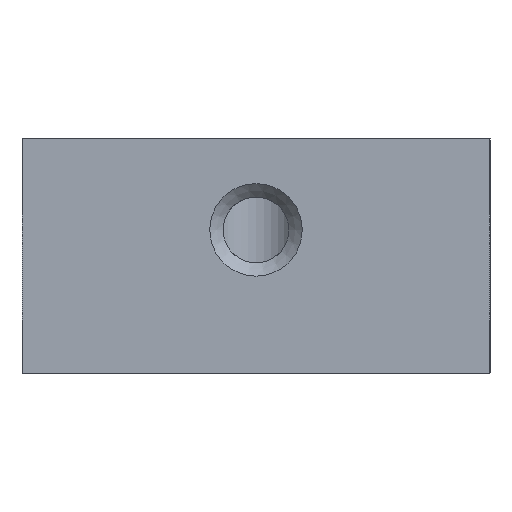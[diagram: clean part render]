
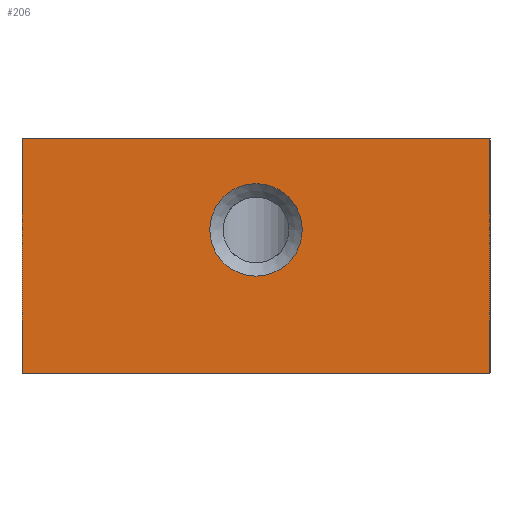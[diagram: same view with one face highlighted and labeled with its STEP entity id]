
A CAD part, left-side view. The second image highlights one B-rep face of the part: STEP entity #206.
In plain terms, the highlighted planar face has unit normal (-1, 0, 0).
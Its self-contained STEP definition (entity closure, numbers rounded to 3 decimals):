
#206=ADVANCED_FACE('',(#603,#605),#607,.T.);
#603=FACE_BOUND('',#604,.T.);
#604=EDGE_LOOP('',(#947,#948,#949,#950));
#605=FACE_BOUND('',#606,.T.);
#606=EDGE_LOOP('',(#951));
#607=PLANE('',#608);
#608=AXIS2_PLACEMENT_3D('',#609,#610,#611);
#609=CARTESIAN_POINT('',(-44.5,-17.5,20.5));
#610=DIRECTION('',(-1.,0.,0.));
#611=DIRECTION('',(0.,1.,0.));
#947=ORIENTED_EDGE('',*,*,#1093,.T.);
#948=ORIENTED_EDGE('',*,*,#1125,.T.);
#949=ORIENTED_EDGE('',*,*,#1052,.F.);
#950=ORIENTED_EDGE('',*,*,#1124,.F.);
#951=ORIENTED_EDGE('',*,*,#1126,.T.);
#1052=EDGE_CURVE('',#1182,#1184,#1185,.T.);
#1093=EDGE_CURVE('',#1264,#1262,#1265,.T.);
#1124=EDGE_CURVE('',#1264,#1182,#1313,.T.);
#1125=EDGE_CURVE('',#1262,#1184,#1314,.T.);
#1126=EDGE_CURVE('',#1315,#1315,#1316,.F.);
#1182=VERTEX_POINT('',#1629);
#1184=VERTEX_POINT('',#1633);
#1185=LINE('',#1634,#1635);
#1262=VERTEX_POINT('',#1807);
#1264=VERTEX_POINT('',#1811);
#1265=LINE('',#1812,#1813);
#1313=LINE('',#1932,#1933);
#1314=LINE('',#1935,#1936);
#1315=VERTEX_POINT('',#1938);
#1316=CIRCLE('',#1939,3.459);
#1629=CARTESIAN_POINT('',(-44.5,-17.5,3.));
#1633=CARTESIAN_POINT('',(-44.5,17.5,3.));
#1634=CARTESIAN_POINT('',(-44.5,-17.5,3.));
#1635=VECTOR('',#1636,1.);
#1636=DIRECTION('',(0.,1.,0.));
#1807=CARTESIAN_POINT('',(-44.5,17.5,20.5));
#1811=CARTESIAN_POINT('',(-44.5,-17.5,20.5));
#1812=CARTESIAN_POINT('',(-44.5,-17.5,20.5));
#1813=VECTOR('',#1814,1.);
#1814=DIRECTION('',(0.,1.,0.));
#1932=CARTESIAN_POINT('',(-44.5,-17.5,20.5));
#1933=VECTOR('',#1934,1.);
#1934=DIRECTION('',(0.,0.,-1.));
#1935=CARTESIAN_POINT('',(-44.5,17.5,20.5));
#1936=VECTOR('',#1937,1.);
#1937=DIRECTION('',(0.,0.,-1.));
#1938=CARTESIAN_POINT('',(-44.5,-3.459,13.7));
#1939=AXIS2_PLACEMENT_3D('',#1940,#1941,#1942);
#1940=CARTESIAN_POINT('',(-44.5,0.,13.7));
#1941=DIRECTION('',(-1.,0.,0.));
#1942=DIRECTION('',(0.,-1.,0.));
